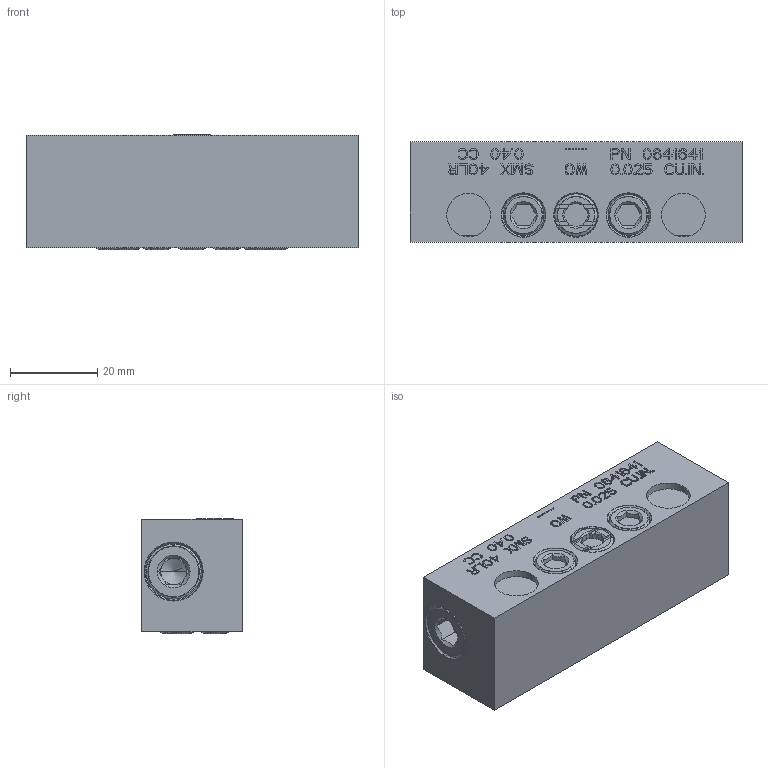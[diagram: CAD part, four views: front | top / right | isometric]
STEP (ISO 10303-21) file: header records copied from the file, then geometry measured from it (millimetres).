
FILE_DESCRIPTION((''),'2;1');
FILE_NAME('0641641_SMX_40LR','2023-07-21T12:02:33',('pietro.masciave'),(''),'CREO PARAMETRIC BY PTC INC, 2022281','CREO PARAMETRIC BY PTC INC, 2022281','');
FILE_SCHEMA(('CONFIG_CONTROL_DESIGN'));
Length unit declared in the file: millimetre
Products named in the file (1): 0641641_SMX_40LR
Bounding box: 76 x 23 x 26.33 mm (x, y, z)
Volume: 44008.1 mm3; surface area: 12649 mm2
Topology: 1 solids, 14 shells, 1278 faces, 3509 edges, 2331 vertices
Faces by surface type: plane 1102, cylinder 110, cone 44, torus 22
Entity records: 41103 total; most frequent: CARTESIAN_POINT 8356, ORIENTED_EDGE 6970, DIRECTION 6348, EDGE_CURVE 3505, VECTOR 3070, LINE 3070, VERTEX_POINT 2331, AXIS2_PLACEMENT_3D 1639
